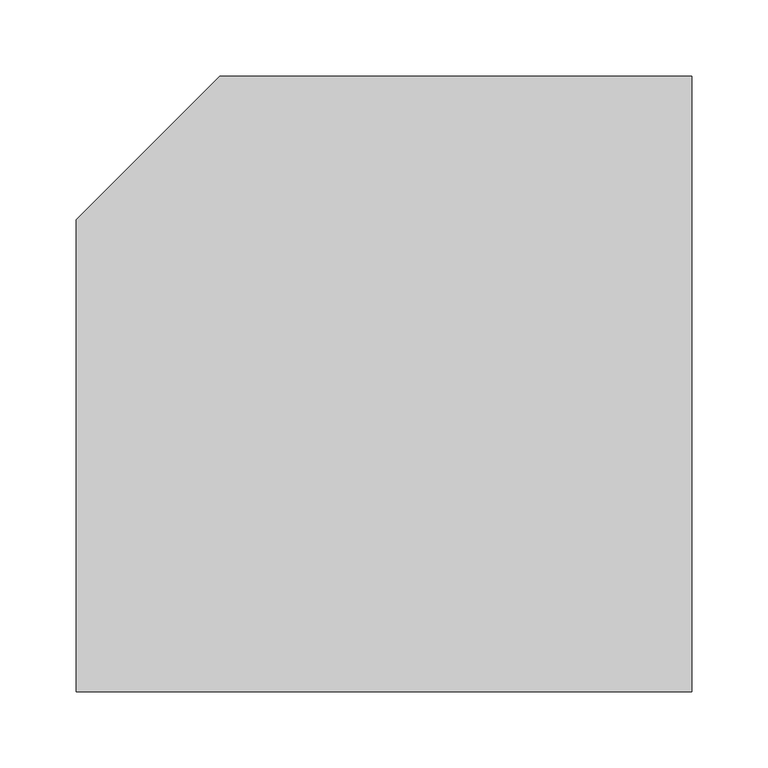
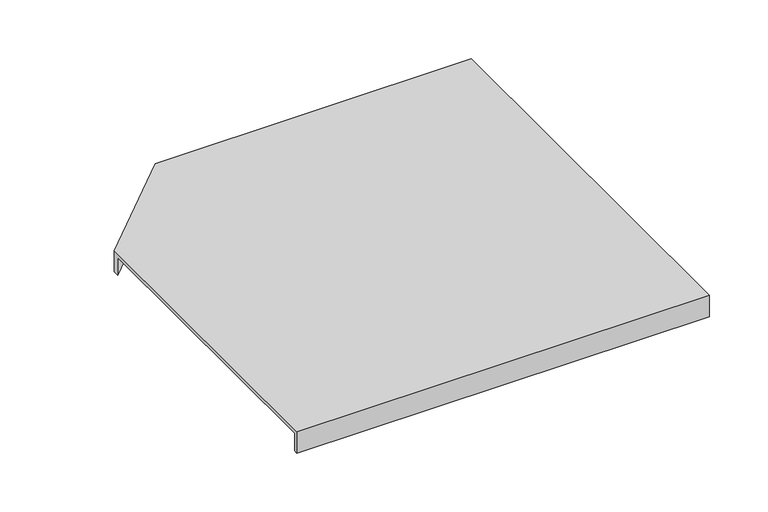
"""IFC4 building model written with IfcOpenShell, lengths in millimetres: proxy geometry, Horizontal Bend_Cover_TCPWT_Basorcanal : Basorcanal TCPWT 300."""

from ifc_helpers import new_model, si_unit, origin, place, context, project, spatial, faceted_brep, source, transform, mapped, element, save


def generic_models_4bbc0010(model_context):
    return source(origin(), model_context, "Body", "Brep", [
        faceted_brep([(94.3431458, 100.0, 4.0), (0.0, 5.6568542, 4.0), (0.0, -304.0, 4.0), (404.0, -304.0, 4.0), (404.0, 100.0, 4.0), (100.0, 100.0, 0.0), (400.0, 100.0, 0.0), (400.0, -300.0, 0.0), (0.0, -300.0, 0.0), (0.0, 0.0, 0.0), (0.0, -300.0, -18.0), (0.0, -304.0, -18.0), (0.0, 5.6568542, -18.0), (0.0, 0.0, -18.0), (100.0, 100.0, -18.0), (94.3431458, 100.0, -18.0), (404.0, 100.0, -18.0), (400.0, 100.0, -18.0), (400.0, -300.0, -18.0), (404.0, -304.0, -18.0)], [[[0, 1, 2, 3, 4]], [[5, 6, 7, 8, 9]], [[9, 8, 10, 11, 2, 1, 12, 13]], [[6, 5, 14, 15, 0, 4, 16, 17]], [[13, 12, 15, 14]], [[13, 14, 5, 9]], [[1, 0, 15, 12]], [[18, 17, 16, 19, 11, 10]], [[18, 10, 8, 7]], [[3, 2, 11, 19]], [[4, 3, 19, 16]], [[17, 18, 7, 6]]]),
    ])


if __name__ == "__main__":
    model = new_model("IFC4")
    model_context = context("Model", 3, world=origin())
    ifc_project = project(units=[si_unit("LENGTHUNIT", "METRE", prefix="MILLI")], contexts=[model_context])
    site = spatial("IfcSite", under=ifc_project)
    building = spatial("IfcBuilding", under=site)
    placement = place(None, origin())
    generic_models_shape = generic_models_4bbc0010(model_context)
    element("IfcBuildingElementProxy", 1, Name="Horizontal Bend_Cover_TCPWT_Basorcanal : Basorcanal TCPWT 300", ObjectType="Horizontal Bend_Cover_TCPWT_Basorcanal : Basorcanal TCPWT 300", at=placement, inside=building, context=model_context, shape_type="MappedRepresentation", body=[
        mapped(generic_models_shape, transform((0.0, 0.0, 0.0), x_axis=(1.0, 0.0, 0.0), y_axis=(0.0, 1.0, 0.0), z_axis=(0.0, 0.0, 1.0))),
    ])
    save(model, "model.ifc")
